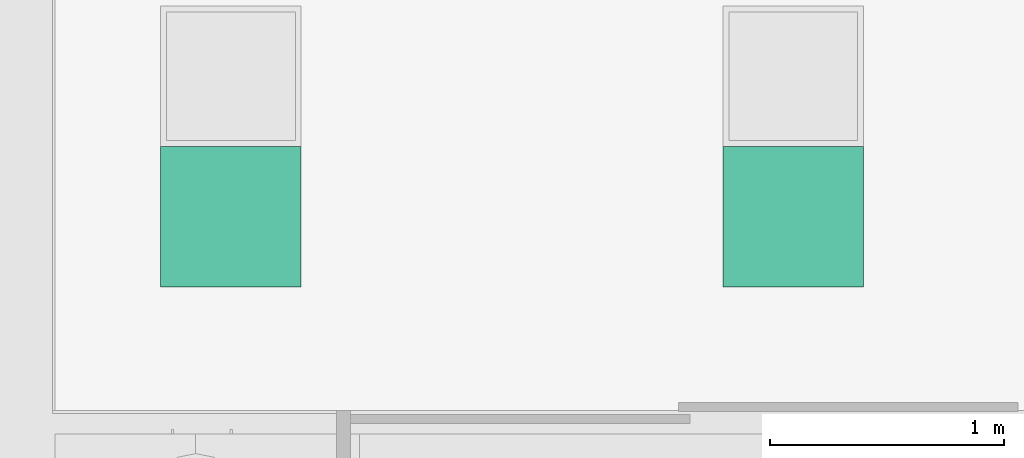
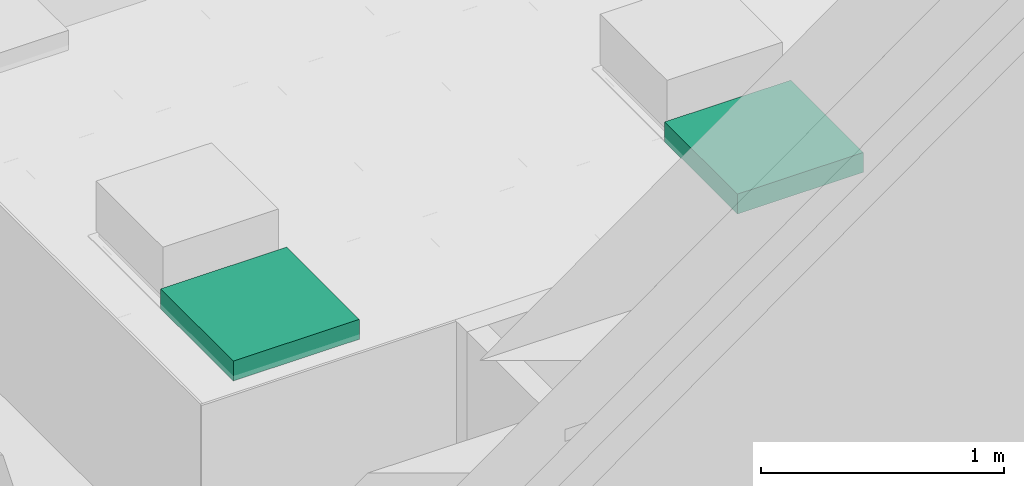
# One storey, part 241 of 347: 2 flow terminals.
"""IFC2X3 building model written with IfcOpenShell, lengths in millimetres."""

from ifc_helpers import new_model, entity, si_unit, converted_unit, derived_unit, money_unit, direction, frame, origin_with_axes, place, context, subcontext, project, spatial, open_shell, faceted_brep, surface_model, source, transform, mapped, type_object, type_shapes, element, save


model = new_model("IFC2X3")

# Units and contexts
model_context = context("Model", 3, precision=0.01, world=origin_with_axes(), true_north=direction((0.0, 1.0)))
plan_context = context("Plan", 3, precision=0.01, world=origin_with_axes(), true_north=direction((0.0, 1.0)))
body_context = subcontext(model_context, "Body", "Model", "MODEL_VIEW")
ifc_project = project(units=[si_unit("LENGTHUNIT", "METRE", prefix="MILLI"), si_unit("AREAUNIT", "SQUARE_METRE"), si_unit("VOLUMEUNIT", "CUBIC_METRE"), converted_unit("PLANEANGLEUNIT", "DEGREE", entity("IfcPlaneAngleMeasure", 0.0174532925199), si_unit("PLANEANGLEUNIT", "RADIAN"), dimensions=[0, 0, 0, 0, 0, 0, 0]), money_unit("EUR"), converted_unit("TIMEUNIT", "Year", entity("IfcTimeMeasure", 31556926.0), si_unit("TIMEUNIT", "SECOND"), dimensions=[0, 0, 1, 0, 0, 0, 0]), si_unit("MASSUNIT", "GRAM", prefix="KILO"), si_unit("THERMODYNAMICTEMPERATUREUNIT", "DEGREE_CELSIUS"), si_unit("LUMINOUSINTENSITYUNIT", "LUMEN"), si_unit("ENERGYUNIT", "JOULE", prefix="MEGA"), derived_unit("THERMALCONDUCTANCEUNIT", [(si_unit("POWERUNIT", "WATT"), 1), (si_unit("LENGTHUNIT", "METRE"), -1), (si_unit("THERMODYNAMICTEMPERATUREUNIT", "KELVIN"), -1)]), derived_unit("SPECIFICHEATCAPACITYUNIT", [(si_unit("ENERGYUNIT", "JOULE"), 1), (si_unit("MASSUNIT", "GRAM", prefix="KILO"), -1), (si_unit("THERMODYNAMICTEMPERATUREUNIT", "KELVIN"), -1)]), derived_unit("MASSDENSITYUNIT", [(si_unit("MASSUNIT", "GRAM", prefix="KILO"), 1), (si_unit("VOLUMEUNIT", "CUBIC_METRE"), -1)])], contexts=[model_context, plan_context])

# Site, building, storey
site_placement = place(None, origin_with_axes())
site = spatial("IfcSite", under=ifc_project, at=site_placement, Name="Site", CompositionType="ELEMENT")
building_placement = place(site_placement, origin_with_axes())
building = spatial("IfcBuilding", under=site, at=building_placement, Name="Naam gebouw", CompositionType="ELEMENT")
storey_placement = place(building_placement, origin_with_axes())
storey = spatial("IfcBuildingStorey", under=building, at=storey_placement, Name="begane grond", CompositionType="ELEMENT", Elevation=0.0)

# Flow terminals
lamp_type = type_object("IfcLampType", Name="TL plafond 25", PredefinedType="NOTDEFINED")
shared_shape = source(origin_with_axes(), body_context, "Body", "SurfaceModel", [
    faceted_brep([(0.0, 0.0, -100.0), (600.0, 0.0, -100.0), (600.0, 0.0, 0.0), (0.0, 0.0, 0.0), (0.0, 600.0, -100.0), (600.0, 600.0, -100.0), (40.0, 40.0, -100.0), (560.0, 40.0, -100.0), (560.0, 560.0, -100.0), (40.0, 560.0, -100.0), (600.0, 600.0, 0.0), (0.0, 600.0, 0.0), (40.0, 40.0, 0.0), (40.0, 560.0, 0.0), (560.0, 560.0, 0.0), (560.0, 40.0, 0.0)], [[[0, 1, 2, 3]], [[0, 4, 5, 1], [6, 7, 8, 9]], [[1, 5, 10, 2]], [[3, 2, 10, 11], [12, 13, 14, 15]], [[4, 0, 3, 11]], [[5, 4, 11, 10]], [[7, 6, 12, 15]], [[8, 7, 15, 14]], [[9, 8, 14, 13]], [[6, 9, 13, 12]]]),
    faceted_brep([(40.0, 40.0, -16.3333333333), (560.0, 40.0, -16.3333333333), (560.0, 40.0, 0.0), (40.0, 40.0, 0.0), (40.0, 560.0, -16.3333333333), (560.0, 560.0, -16.3333333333), (560.0, 560.0, 0.0), (40.0, 560.0, 0.0)], [[[0, 1, 2, 3]], [[0, 4, 5, 1]], [[1, 5, 6, 2]], [[3, 2, 6, 7]], [[4, 0, 3, 7]], [[5, 4, 7, 6]]]),
    surface_model("IfcShellBasedSurfaceModel", [(559.0, 41.0, -100.0), (40.0, 41.0, -100.0), (40.0, 559.0, -100.0), (559.0, 559.0, -100.0)], [open_shell([[[0, 1, 2, 3]]])]),
    faceted_brep([(40.0, 40.0, -100.0), (560.0, 40.0, -100.0), (560.0, 40.0, -60.0), (40.0, 40.0, -60.0), (40.0, 560.0, -100.0), (560.0, 560.0, -100.0), (41.0, 41.0, -100.0), (559.0, 41.0, -100.0), (559.0, 559.0, -100.0), (41.0, 559.0, -100.0), (560.0, 560.0, -60.0), (40.0, 560.0, -60.0), (41.0, 41.0, -60.0), (41.0, 559.0, -60.0), (559.0, 559.0, -60.0), (559.0, 41.0, -60.0)], [[[0, 1, 2, 3]], [[0, 4, 5, 1], [6, 7, 8, 9]], [[1, 5, 10, 2]], [[3, 2, 10, 11], [12, 13, 14, 15]], [[4, 0, 3, 11]], [[5, 4, 11, 10]], [[7, 6, 12, 15]], [[8, 7, 15, 14]], [[9, 8, 14, 13]], [[6, 9, 13, 12]]]),
    faceted_brep([(40.0, 144.0, -48.3333333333), (40.0, 149.740251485, -47.191526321), (560.0, 149.740251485, -47.191526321), (560.0, 144.0, -48.3333333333), (40.0, 138.259748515, -47.191526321), (40.0, 133.393398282, -43.9399350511), (40.0, 130.141807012, -39.0735848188), (40.0, 129.0, -33.3333333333), (40.0, 130.141807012, -27.5930818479), (40.0, 133.393398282, -22.7267316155), (40.0, 138.259748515, -19.4751403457), (40.0, 144.0, -18.3333333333), (40.0, 149.740251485, -19.4751403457), (40.0, 154.606601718, -22.7267316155), (40.0, 157.858192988, -27.5930818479), (40.0, 159.0, -33.3333333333), (40.0, 157.858192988, -39.0735848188), (40.0, 154.606601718, -43.9399350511), (40.0, 144.0, -46.3333333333), (40.0, 148.974884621, -45.343767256), (40.0, 153.192388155, -42.5257214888), (40.0, 156.010433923, -38.3082179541), (40.0, 157.0, -33.3333333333), (40.0, 156.010433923, -28.3584487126), (40.0, 153.192388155, -24.1409451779), (40.0, 148.974884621, -21.3228994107), (40.0, 144.0, -20.3333333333), (40.0, 139.025115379, -21.3228994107), (40.0, 134.807611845, -24.1409451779), (40.0, 131.989566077, -28.3584487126), (40.0, 131.0, -33.3333333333), (40.0, 131.989566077, -38.3082179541), (40.0, 134.807611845, -42.5257214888), (40.0, 139.025115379, -45.343767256), (560.0, 154.606601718, -43.9399350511), (560.0, 157.858192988, -39.0735848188), (560.0, 159.0, -33.3333333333), (560.0, 157.858192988, -27.5930818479), (560.0, 154.606601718, -22.7267316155), (560.0, 149.740251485, -19.4751403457), (560.0, 144.0, -18.3333333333), (560.0, 138.259748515, -19.4751403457), (560.0, 133.393398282, -22.7267316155), (560.0, 130.141807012, -27.5930818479), (560.0, 129.0, -33.3333333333), (560.0, 130.141807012, -39.0735848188), (560.0, 133.393398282, -43.9399350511), (560.0, 138.259748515, -47.191526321), (560.0, 144.0, -46.3333333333), (560.0, 139.025115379, -45.343767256), (560.0, 134.807611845, -42.5257214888), (560.0, 131.989566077, -38.3082179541), (560.0, 131.0, -33.3333333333), (560.0, 131.989566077, -28.3584487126), (560.0, 134.807611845, -24.1409451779), (560.0, 139.025115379, -21.3228994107), (560.0, 144.0, -20.3333333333), (560.0, 148.974884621, -21.3228994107), (560.0, 153.192388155, -24.1409451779), (560.0, 156.010433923, -28.3584487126), (560.0, 157.0, -33.3333333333), (560.0, 156.010433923, -38.3082179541), (560.0, 153.192388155, -42.5257214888), (560.0, 148.974884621, -45.343767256)], [[[0, 1, 2, 3]], [[0, 4, 5, 6, 7, 8, 9, 10, 11, 12, 13, 14, 15, 16, 17, 1], [18, 19, 20, 21, 22, 23, 24, 25, 26, 27, 28, 29, 30, 31, 32, 33]], [[1, 17, 34, 2]], [[3, 2, 34, 35, 36, 37, 38, 39, 40, 41, 42, 43, 44, 45, 46, 47], [48, 49, 50, 51, 52, 53, 54, 55, 56, 57, 58, 59, 60, 61, 62, 63]], [[4, 0, 3, 47]], [[5, 4, 47, 46]], [[6, 5, 46, 45]], [[7, 6, 45, 44]], [[8, 7, 44, 43]], [[9, 8, 43, 42]], [[10, 9, 42, 41]], [[11, 10, 41, 40]], [[12, 11, 40, 39]], [[13, 12, 39, 38]], [[14, 13, 38, 37]], [[15, 14, 37, 36]], [[16, 15, 36, 35]], [[17, 16, 35, 34]], [[19, 18, 48, 63]], [[20, 19, 63, 62]], [[21, 20, 62, 61]], [[22, 21, 61, 60]], [[23, 22, 60, 59]], [[24, 23, 59, 58]], [[25, 24, 58, 57]], [[26, 25, 57, 56]], [[27, 26, 56, 55]], [[28, 27, 55, 54]], [[29, 28, 54, 53]], [[30, 29, 53, 52]], [[31, 30, 52, 51]], [[32, 31, 51, 50]], [[33, 32, 50, 49]], [[18, 33, 49, 48]]]),
    faceted_brep([(40.0, 248.0, -48.3333333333), (40.0, 253.740251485, -47.191526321), (560.0, 253.740251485, -47.191526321), (560.0, 248.0, -48.3333333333), (40.0, 242.259748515, -47.191526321), (40.0, 237.393398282, -43.9399350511), (40.0, 234.141807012, -39.0735848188), (40.0, 233.0, -33.3333333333), (40.0, 234.141807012, -27.5930818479), (40.0, 237.393398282, -22.7267316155), (40.0, 242.259748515, -19.4751403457), (40.0, 248.0, -18.3333333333), (40.0, 253.740251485, -19.4751403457), (40.0, 258.606601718, -22.7267316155), (40.0, 261.858192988, -27.5930818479), (40.0, 263.0, -33.3333333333), (40.0, 261.858192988, -39.0735848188), (40.0, 258.606601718, -43.9399350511), (40.0, 248.0, -46.3333333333), (40.0, 252.974884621, -45.343767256), (40.0, 257.192388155, -42.5257214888), (40.0, 260.010433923, -38.3082179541), (40.0, 261.0, -33.3333333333), (40.0, 260.010433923, -28.3584487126), (40.0, 257.192388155, -24.1409451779), (40.0, 252.974884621, -21.3228994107), (40.0, 248.0, -20.3333333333), (40.0, 243.025115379, -21.3228994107), (40.0, 238.807611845, -24.1409451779), (40.0, 235.989566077, -28.3584487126), (40.0, 235.0, -33.3333333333), (40.0, 235.989566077, -38.3082179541), (40.0, 238.807611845, -42.5257214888), (40.0, 243.025115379, -45.343767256), (560.0, 258.606601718, -43.9399350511), (560.0, 261.858192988, -39.0735848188), (560.0, 263.0, -33.3333333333), (560.0, 261.858192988, -27.5930818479), (560.0, 258.606601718, -22.7267316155), (560.0, 253.740251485, -19.4751403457), (560.0, 248.0, -18.3333333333), (560.0, 242.259748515, -19.4751403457), (560.0, 237.393398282, -22.7267316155), (560.0, 234.141807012, -27.5930818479), (560.0, 233.0, -33.3333333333), (560.0, 234.141807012, -39.0735848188), (560.0, 237.393398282, -43.9399350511), (560.0, 242.259748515, -47.191526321), (560.0, 248.0, -46.3333333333), (560.0, 243.025115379, -45.343767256), (560.0, 238.807611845, -42.5257214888), (560.0, 235.989566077, -38.3082179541), (560.0, 235.0, -33.3333333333), (560.0, 235.989566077, -28.3584487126), (560.0, 238.807611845, -24.1409451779), (560.0, 243.025115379, -21.3228994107), (560.0, 248.0, -20.3333333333), (560.0, 252.974884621, -21.3228994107), (560.0, 257.192388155, -24.1409451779), (560.0, 260.010433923, -28.3584487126), (560.0, 261.0, -33.3333333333), (560.0, 260.010433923, -38.3082179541), (560.0, 257.192388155, -42.5257214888), (560.0, 252.974884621, -45.343767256)], [[[0, 1, 2, 3]], [[0, 4, 5, 6, 7, 8, 9, 10, 11, 12, 13, 14, 15, 16, 17, 1], [18, 19, 20, 21, 22, 23, 24, 25, 26, 27, 28, 29, 30, 31, 32, 33]], [[1, 17, 34, 2]], [[3, 2, 34, 35, 36, 37, 38, 39, 40, 41, 42, 43, 44, 45, 46, 47], [48, 49, 50, 51, 52, 53, 54, 55, 56, 57, 58, 59, 60, 61, 62, 63]], [[4, 0, 3, 47]], [[5, 4, 47, 46]], [[6, 5, 46, 45]], [[7, 6, 45, 44]], [[8, 7, 44, 43]], [[9, 8, 43, 42]], [[10, 9, 42, 41]], [[11, 10, 41, 40]], [[12, 11, 40, 39]], [[13, 12, 39, 38]], [[14, 13, 38, 37]], [[15, 14, 37, 36]], [[16, 15, 36, 35]], [[17, 16, 35, 34]], [[19, 18, 48, 63]], [[20, 19, 63, 62]], [[21, 20, 62, 61]], [[22, 21, 61, 60]], [[23, 22, 60, 59]], [[24, 23, 59, 58]], [[25, 24, 58, 57]], [[26, 25, 57, 56]], [[27, 26, 56, 55]], [[28, 27, 55, 54]], [[29, 28, 54, 53]], [[30, 29, 53, 52]], [[31, 30, 52, 51]], [[32, 31, 51, 50]], [[33, 32, 50, 49]], [[18, 33, 49, 48]]]),
    faceted_brep([(40.0, 352.0, -48.3333333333), (40.0, 357.740251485, -47.191526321), (560.0, 357.740251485, -47.191526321), (560.0, 352.0, -48.3333333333), (40.0, 346.259748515, -47.191526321), (40.0, 341.393398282, -43.9399350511), (40.0, 338.141807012, -39.0735848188), (40.0, 337.0, -33.3333333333), (40.0, 338.141807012, -27.5930818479), (40.0, 341.393398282, -22.7267316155), (40.0, 346.259748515, -19.4751403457), (40.0, 352.0, -18.3333333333), (40.0, 357.740251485, -19.4751403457), (40.0, 362.606601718, -22.7267316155), (40.0, 365.858192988, -27.5930818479), (40.0, 367.0, -33.3333333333), (40.0, 365.858192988, -39.0735848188), (40.0, 362.606601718, -43.9399350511), (40.0, 352.0, -46.3333333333), (40.0, 356.974884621, -45.343767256), (40.0, 361.192388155, -42.5257214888), (40.0, 364.010433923, -38.3082179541), (40.0, 365.0, -33.3333333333), (40.0, 364.010433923, -28.3584487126), (40.0, 361.192388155, -24.1409451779), (40.0, 356.974884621, -21.3228994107), (40.0, 352.0, -20.3333333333), (40.0, 347.025115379, -21.3228994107), (40.0, 342.807611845, -24.1409451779), (40.0, 339.989566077, -28.3584487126), (40.0, 339.0, -33.3333333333), (40.0, 339.989566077, -38.3082179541), (40.0, 342.807611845, -42.5257214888), (40.0, 347.025115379, -45.343767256), (560.0, 362.606601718, -43.9399350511), (560.0, 365.858192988, -39.0735848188), (560.0, 367.0, -33.3333333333), (560.0, 365.858192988, -27.5930818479), (560.0, 362.606601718, -22.7267316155), (560.0, 357.740251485, -19.4751403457), (560.0, 352.0, -18.3333333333), (560.0, 346.259748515, -19.4751403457), (560.0, 341.393398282, -22.7267316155), (560.0, 338.141807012, -27.5930818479), (560.0, 337.0, -33.3333333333), (560.0, 338.141807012, -39.0735848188), (560.0, 341.393398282, -43.9399350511), (560.0, 346.259748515, -47.191526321), (560.0, 352.0, -46.3333333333), (560.0, 347.025115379, -45.343767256), (560.0, 342.807611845, -42.5257214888), (560.0, 339.989566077, -38.3082179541), (560.0, 339.0, -33.3333333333), (560.0, 339.989566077, -28.3584487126), (560.0, 342.807611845, -24.1409451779), (560.0, 347.025115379, -21.3228994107), (560.0, 352.0, -20.3333333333), (560.0, 356.974884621, -21.3228994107), (560.0, 361.192388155, -24.1409451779), (560.0, 364.010433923, -28.3584487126), (560.0, 365.0, -33.3333333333), (560.0, 364.010433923, -38.3082179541), (560.0, 361.192388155, -42.5257214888), (560.0, 356.974884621, -45.343767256)], [[[0, 1, 2, 3]], [[0, 4, 5, 6, 7, 8, 9, 10, 11, 12, 13, 14, 15, 16, 17, 1], [18, 19, 20, 21, 22, 23, 24, 25, 26, 27, 28, 29, 30, 31, 32, 33]], [[1, 17, 34, 2]], [[3, 2, 34, 35, 36, 37, 38, 39, 40, 41, 42, 43, 44, 45, 46, 47], [48, 49, 50, 51, 52, 53, 54, 55, 56, 57, 58, 59, 60, 61, 62, 63]], [[4, 0, 3, 47]], [[5, 4, 47, 46]], [[6, 5, 46, 45]], [[7, 6, 45, 44]], [[8, 7, 44, 43]], [[9, 8, 43, 42]], [[10, 9, 42, 41]], [[11, 10, 41, 40]], [[12, 11, 40, 39]], [[13, 12, 39, 38]], [[14, 13, 38, 37]], [[15, 14, 37, 36]], [[16, 15, 36, 35]], [[17, 16, 35, 34]], [[19, 18, 48, 63]], [[20, 19, 63, 62]], [[21, 20, 62, 61]], [[22, 21, 61, 60]], [[23, 22, 60, 59]], [[24, 23, 59, 58]], [[25, 24, 58, 57]], [[26, 25, 57, 56]], [[27, 26, 56, 55]], [[28, 27, 55, 54]], [[29, 28, 54, 53]], [[30, 29, 53, 52]], [[31, 30, 52, 51]], [[32, 31, 51, 50]], [[33, 32, 50, 49]], [[18, 33, 49, 48]]]),
    faceted_brep([(40.0, 456.0, -48.3333333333), (40.0, 461.740251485, -47.191526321), (560.0, 461.740251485, -47.191526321), (560.0, 456.0, -48.3333333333), (40.0, 450.259748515, -47.191526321), (40.0, 445.393398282, -43.9399350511), (40.0, 442.141807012, -39.0735848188), (40.0, 441.0, -33.3333333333), (40.0, 442.141807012, -27.5930818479), (40.0, 445.393398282, -22.7267316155), (40.0, 450.259748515, -19.4751403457), (40.0, 456.0, -18.3333333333), (40.0, 461.740251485, -19.4751403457), (40.0, 466.606601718, -22.7267316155), (40.0, 469.858192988, -27.5930818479), (40.0, 471.0, -33.3333333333), (40.0, 469.858192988, -39.0735848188), (40.0, 466.606601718, -43.9399350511), (40.0, 456.0, -46.3333333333), (40.0, 460.974884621, -45.343767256), (40.0, 465.192388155, -42.5257214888), (40.0, 468.010433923, -38.3082179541), (40.0, 469.0, -33.3333333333), (40.0, 468.010433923, -28.3584487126), (40.0, 465.192388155, -24.1409451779), (40.0, 460.974884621, -21.3228994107), (40.0, 456.0, -20.3333333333), (40.0, 451.025115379, -21.3228994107), (40.0, 446.807611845, -24.1409451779), (40.0, 443.989566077, -28.3584487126), (40.0, 443.0, -33.3333333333), (40.0, 443.989566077, -38.3082179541), (40.0, 446.807611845, -42.5257214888), (40.0, 451.025115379, -45.343767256), (560.0, 466.606601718, -43.9399350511), (560.0, 469.858192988, -39.0735848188), (560.0, 471.0, -33.3333333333), (560.0, 469.858192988, -27.5930818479), (560.0, 466.606601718, -22.7267316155), (560.0, 461.740251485, -19.4751403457), (560.0, 456.0, -18.3333333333), (560.0, 450.259748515, -19.4751403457), (560.0, 445.393398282, -22.7267316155), (560.0, 442.141807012, -27.5930818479), (560.0, 441.0, -33.3333333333), (560.0, 442.141807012, -39.0735848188), (560.0, 445.393398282, -43.9399350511), (560.0, 450.259748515, -47.191526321), (560.0, 456.0, -46.3333333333), (560.0, 451.025115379, -45.343767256), (560.0, 446.807611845, -42.5257214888), (560.0, 443.989566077, -38.3082179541), (560.0, 443.0, -33.3333333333), (560.0, 443.989566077, -28.3584487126), (560.0, 446.807611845, -24.1409451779), (560.0, 451.025115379, -21.3228994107), (560.0, 456.0, -20.3333333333), (560.0, 460.974884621, -21.3228994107), (560.0, 465.192388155, -24.1409451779), (560.0, 468.010433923, -28.3584487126), (560.0, 469.0, -33.3333333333), (560.0, 468.010433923, -38.3082179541), (560.0, 465.192388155, -42.5257214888), (560.0, 460.974884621, -45.343767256)], [[[0, 1, 2, 3]], [[0, 4, 5, 6, 7, 8, 9, 10, 11, 12, 13, 14, 15, 16, 17, 1], [18, 19, 20, 21, 22, 23, 24, 25, 26, 27, 28, 29, 30, 31, 32, 33]], [[1, 17, 34, 2]], [[3, 2, 34, 35, 36, 37, 38, 39, 40, 41, 42, 43, 44, 45, 46, 47], [48, 49, 50, 51, 52, 53, 54, 55, 56, 57, 58, 59, 60, 61, 62, 63]], [[4, 0, 3, 47]], [[5, 4, 47, 46]], [[6, 5, 46, 45]], [[7, 6, 45, 44]], [[8, 7, 44, 43]], [[9, 8, 43, 42]], [[10, 9, 42, 41]], [[11, 10, 41, 40]], [[12, 11, 40, 39]], [[13, 12, 39, 38]], [[14, 13, 38, 37]], [[15, 14, 37, 36]], [[16, 15, 36, 35]], [[17, 16, 35, 34]], [[19, 18, 48, 63]], [[20, 19, 63, 62]], [[21, 20, 62, 61]], [[22, 21, 61, 60]], [[23, 22, 60, 59]], [[24, 23, 59, 58]], [[25, 24, 58, 57]], [[26, 25, 57, 56]], [[27, 26, 56, 55]], [[28, 27, 55, 54]], [[29, 28, 54, 53]], [[30, 29, 53, 52]], [[31, 30, 52, 51]], [[32, 31, 51, 50]], [[33, 32, 50, 49]], [[18, 33, 49, 48]]]),
])
type_shapes(lamp_type, [shared_shape])
for number, where, z_axis, x_axis, name in (
    (1, (51825.0, 13487.5, 3295.0), (0.0, 0.0, 1.0), (1.0, 0.0, 0.0), "63_Lamp-x"),
    (2, (49425.0, 13487.5, 3295.0), (0.0, 0.0, 1.0), (1.0, 0.0, 0.0), "63_Lamp-x"),
):
    element("IfcFlowTerminal", number, at=place(storey_placement, frame(where, z_axis=z_axis, x_axis=x_axis)), inside=storey, type_object=lamp_type, Name=name, ObjectType="Lamp", context=body_context, shape_type="MappedRepresentation", body=[
        mapped(shared_shape, transform((0.0, 0.0, 0.0))),
    ])

save(model, "model.ifc")
